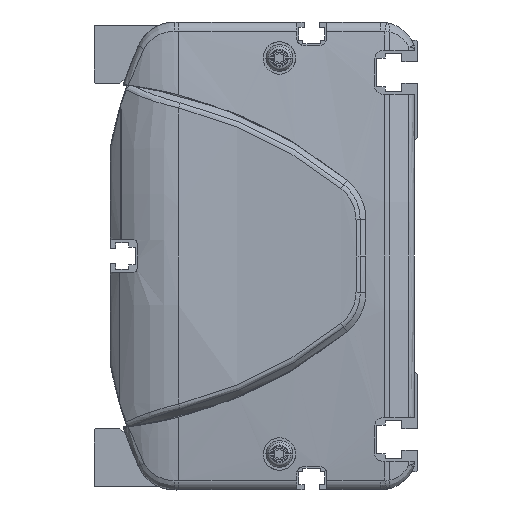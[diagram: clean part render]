
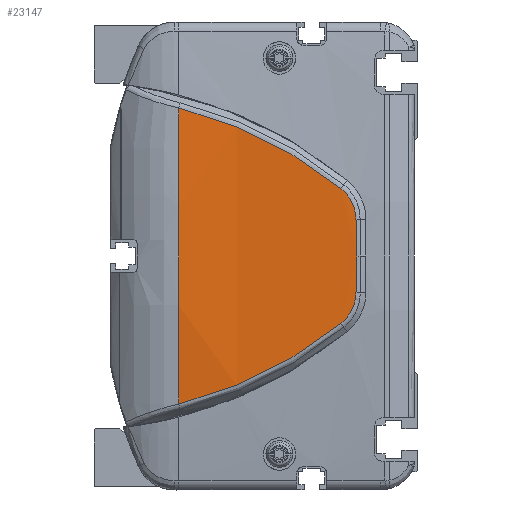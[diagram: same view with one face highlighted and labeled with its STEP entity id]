
A CAD part, left-side view. The second image highlights one B-rep face of the part: STEP entity #23147.
In plain terms, the highlighted cylindrical face has radius 500 mm (diameter 1000 mm), a partial arc.
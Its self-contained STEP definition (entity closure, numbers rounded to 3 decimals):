
#2733=CARTESIAN_POINT('',(486.,66.362,0.));
#2734=DIRECTION('',(0.,-1.,0.));
#2735=DIRECTION('',(-0.997,0.,0.082));
#2736=AXIS2_PLACEMENT_3D('',#2733,#2734,#2735);
#7653=CARTESIAN_POINT('',(-13.648,21.313,
-18.759));
#7654=CARTESIAN_POINT('',(-13.449,27.904,
-24.058));
#7655=CARTESIAN_POINT('',(-12.934,42.195,
-33.27));
#7656=CARTESIAN_POINT('',(-12.471,58.156,
-39.127));
#7657=CARTESIAN_POINT('',(-12.306,66.362,
-41.121));
#7659=CARTESIAN_POINT('',(-12.306,66.362,41.121));
#7660=CARTESIAN_POINT('',(-12.471,58.156,39.127));
#7661=CARTESIAN_POINT('',(-12.934,42.195,33.27));
#7662=CARTESIAN_POINT('',(-13.449,27.904,24.058));
#7663=CARTESIAN_POINT('',(-13.648,21.313,18.759));
#7665=CARTESIAN_POINT('',(-13.648,21.313,18.759));
#7666=CARTESIAN_POINT('',(-13.686,20.035,17.736));
#7667=CARTESIAN_POINT('',(-13.779,17.936,15.107));
#7668=CARTESIAN_POINT('',(-13.863,17.152,11.827));
#7669=CARTESIAN_POINT('',(-13.896,17.124,10.178));
#7671=CARTESIAN_POINT('',(-13.896,17.124,10.178));
#7672=CARTESIAN_POINT('',(-13.92,17.107,9.023));
#7673=CARTESIAN_POINT('',(-13.959,17.067,6.728));
#7674=CARTESIAN_POINT('',(-13.993,16.979,3.333));
#7675=CARTESIAN_POINT('',(-14.,16.898,1.105));
#7676=CARTESIAN_POINT('',(-14.,16.849,
0.));
#7678=CARTESIAN_POINT('',(-14.,16.849,
0.));
#7679=CARTESIAN_POINT('',(-14.,16.898,
-1.105));
#7680=CARTESIAN_POINT('',(-13.993,16.979,
-3.334));
#7681=CARTESIAN_POINT('',(-13.959,17.067,
-6.727));
#7682=CARTESIAN_POINT('',(-13.92,17.107,
-9.025));
#7683=CARTESIAN_POINT('',(-13.896,17.124,
-10.18));
#7685=CARTESIAN_POINT('',(-13.896,17.124,
-10.18));
#7686=CARTESIAN_POINT('',(-13.863,17.152,
-11.828));
#7687=CARTESIAN_POINT('',(-13.779,17.937,
-15.109));
#7688=CARTESIAN_POINT('',(-13.686,20.035,
-17.736));
#7689=CARTESIAN_POINT('',(-13.648,21.313,
-18.759));
#10711=VERTEX_POINT('',#7653);
#10712=VERTEX_POINT('',#7657);
#10713=CARTESIAN_POINT('',(-12.306,66.362,
41.121));
#10714=VERTEX_POINT('',#10713);
#10715=VERTEX_POINT('',#7663);
#10716=VERTEX_POINT('',#7669);
#10717=VERTEX_POINT('',#7676);
#10718=VERTEX_POINT('',#7683);
#23128=CARTESIAN_POINT('',(486.,8.006,0.));
#23129=DIRECTION('',(0.,1.,0.));
#23130=DIRECTION('',(1.,0.,0.));
#23131=AXIS2_PLACEMENT_3D('',#23128,#23129,#23130);
#23132=CYLINDRICAL_SURFACE('',#23131,500.);
#23133=ORIENTED_EDGE('',*,*,#23118,.T.);
#23134=ORIENTED_EDGE('',*,*,#16775,.F.);
#23136=ORIENTED_EDGE('',*,*,#23135,.T.);
#23138=ORIENTED_EDGE('',*,*,#23137,.T.);
#23140=ORIENTED_EDGE('',*,*,#23139,.T.);
#23142=ORIENTED_EDGE('',*,*,#23141,.T.);
#23144=ORIENTED_EDGE('',*,*,#23143,.T.);
#23145=EDGE_LOOP('',(#23133,#23134,#23136,#23138,#23140,#23142,#23144));
#23146=FACE_OUTER_BOUND('',#23145,.F.);
#23147=ADVANCED_FACE('',(#23146),#23132,.T.);
#2737=CIRCLE('',#2736,500.);
#7658=B_SPLINE_CURVE_WITH_KNOTS('',3,(#7653,#7654,#7655,#7656,#7657),
.UNSPECIFIED.,.F.,.F.,(4,1,4),(0.,0.5,1.),.UNSPECIFIED.);
#7664=B_SPLINE_CURVE_WITH_KNOTS('',3,(#7659,#7660,#7661,#7662,#7663),
.UNSPECIFIED.,.F.,.F.,(4,1,4),(0.,0.5,1.),.UNSPECIFIED.);
#7670=B_SPLINE_CURVE_WITH_KNOTS('',3,(#7665,#7666,#7667,#7668,#7669),
.UNSPECIFIED.,.F.,.F.,(4,1,4),(0.,0.5,1.),.UNSPECIFIED.);
#7677=B_SPLINE_CURVE_WITH_KNOTS('',3,(#7671,#7672,#7673,#7674,#7675,#7676),
.UNSPECIFIED.,.F.,.F.,(4,1,1,4),(0.,0.333,0.667,1.),
.UNSPECIFIED.);
#7684=B_SPLINE_CURVE_WITH_KNOTS('',3,(#7678,#7679,#7680,#7681,#7682,#7683),
.UNSPECIFIED.,.F.,.F.,(4,1,1,4),(0.,0.333,0.667,1.),
.UNSPECIFIED.);
#7690=B_SPLINE_CURVE_WITH_KNOTS('',3,(#7685,#7686,#7687,#7688,#7689),
.UNSPECIFIED.,.F.,.F.,(4,1,4),(0.,0.5,1.),.UNSPECIFIED.);
#16775=EDGE_CURVE('',#10714,#10712,#2737,.T.);
#23118=EDGE_CURVE('',#10711,#10712,#7658,.T.);
#23135=EDGE_CURVE('',#10714,#10715,#7664,.T.);
#23137=EDGE_CURVE('',#10715,#10716,#7670,.T.);
#23139=EDGE_CURVE('',#10716,#10717,#7677,.T.);
#23141=EDGE_CURVE('',#10717,#10718,#7684,.T.);
#23143=EDGE_CURVE('',#10718,#10711,#7690,.T.);
